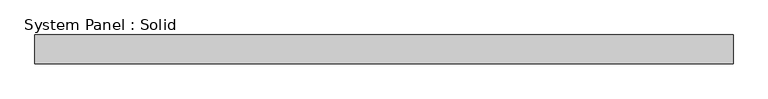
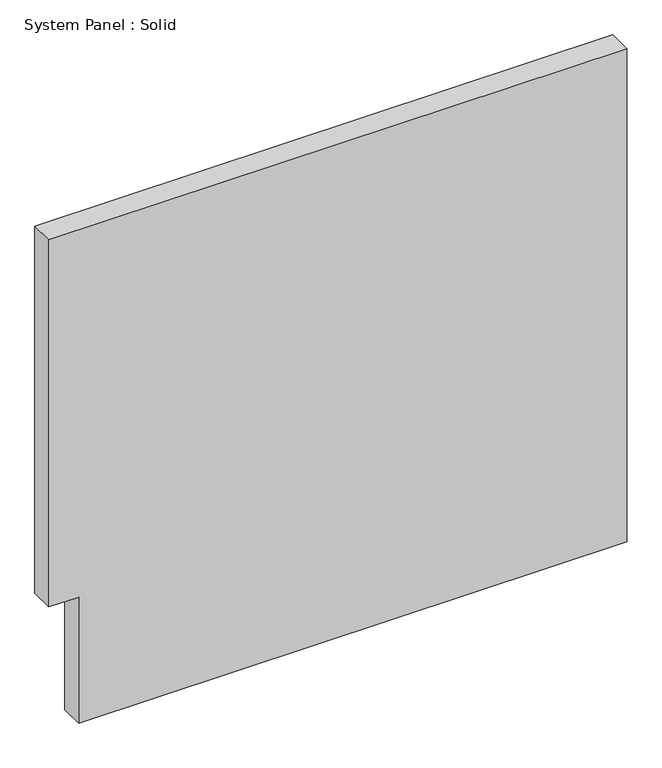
"""IFC4 building model written with IfcOpenShell, lengths in millimetres: plate geometry, System Panel : Solid."""

from ifc_helpers import new_model, si_unit, frame, origin, place, context, project, spatial, polyline, outline, extrude, source, transform, mapped, element, save


def system_panel_solid_080c1e2c(model_context):
    return source(origin(), model_context, "Body", "SweptSolid", [
        extrude(outline(polyline([(0.0, -651.2043006), (0.0, 726.123828), (1310.0, 726.123828), (1310.0, -726.123828), (335.0, -726.123828), (335.0, -651.2043006), (0.0, -651.2043006)])), frame((0.0, -49.5, 0.0), z_axis=(0.0, 1.0, 0.0), x_axis=(0.0, 0.0, 1.0)), (0.0, 0.0, 1.0), 60.0),
    ])


if __name__ == "__main__":
    model = new_model("IFC4")
    model_context = context("Model", 3, world=origin())
    ifc_project = project(units=[si_unit("LENGTHUNIT", "METRE", prefix="MILLI")], contexts=[model_context])
    site = spatial("IfcSite", under=ifc_project)
    building = spatial("IfcBuilding", under=site)
    placement = place(None, origin())
    system_panel_solid_shape = system_panel_solid_080c1e2c(model_context)
    element("IfcPlate", 1, ObjectType="System Panel : Solid", at=placement, inside=building, context=model_context, shape_type="MappedRepresentation", body=[
        mapped(system_panel_solid_shape, transform((0.0, 0.0, 0.0), x_axis=(1.0, 0.0, 0.0), y_axis=(0.0, 1.0, 0.0), z_axis=(0.0, 0.0, 1.0))),
    ])
    save(model, "model.ifc")
